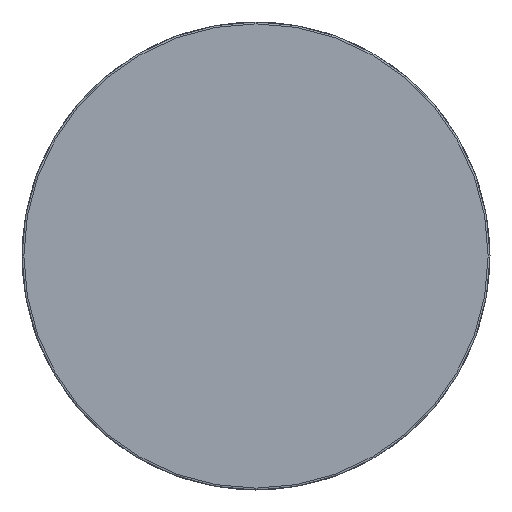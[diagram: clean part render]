
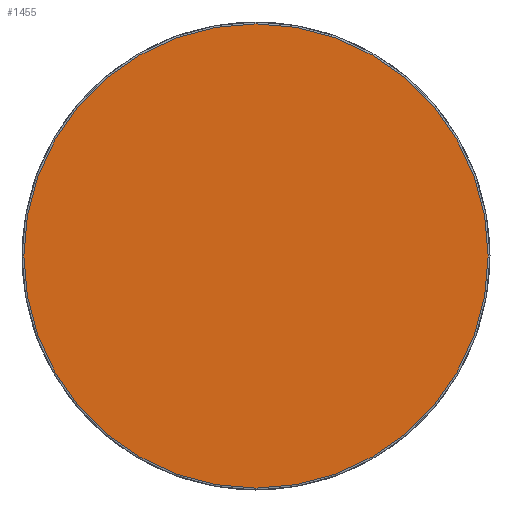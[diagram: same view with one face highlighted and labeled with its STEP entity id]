
A CAD part, left-side view. The second image highlights one B-rep face of the part: STEP entity #1455.
In plain terms, the highlighted planar face has unit normal (-1, 0, 0).
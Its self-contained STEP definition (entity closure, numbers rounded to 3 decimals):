
#1430=CARTESIAN_POINT('',(-424.185,-458.109,-50.497));
#1431=DIRECTION('',(-1.0,0.0,0.0));
#1432=DIRECTION('',(0.0,-1.0,0.0));
#1433=AXIS2_PLACEMENT_3D('',#1430,#1431,#1432);
#1434=PLANE('',#1433);
#1435=CARTESIAN_POINT('',(-424.185,-512.909,-20.497));
#1436=VERTEX_POINT('',#1435);
#1437=CARTESIAN_POINT('',(-424.185,-463.309,-20.497));
#1438=VERTEX_POINT('',#1437);
#1439=CARTESIAN_POINT('',(-424.185,-488.109,-20.497));
#1440=DIRECTION('',(-1.0,0.0,0.0));
#1441=DIRECTION('',(0.0,-1.0,0.0));
#1442=AXIS2_PLACEMENT_3D('',#1439,#1440,#1441);
#1443=CIRCLE('',#1442,24.8);
#1444=EDGE_CURVE('',#1436,#1438,#1443,.T.);
#1445=ORIENTED_EDGE('',*,*,#1444,.T.);
#1446=CARTESIAN_POINT('',(-424.185,-488.109,-20.497));
#1447=DIRECTION('',(-1.0,0.0,0.0));
#1448=DIRECTION('',(0.0,-1.0,0.0));
#1449=AXIS2_PLACEMENT_3D('',#1446,#1447,#1448);
#1450=CIRCLE('',#1449,24.8);
#1451=EDGE_CURVE('',#1438,#1436,#1450,.T.);
#1452=ORIENTED_EDGE('',*,*,#1451,.T.);
#1453=EDGE_LOOP('',(#1445,#1452));
#1454=FACE_OUTER_BOUND('',#1453,.T.);
#1455=ADVANCED_FACE('',(#1454),#1434,.T.);
